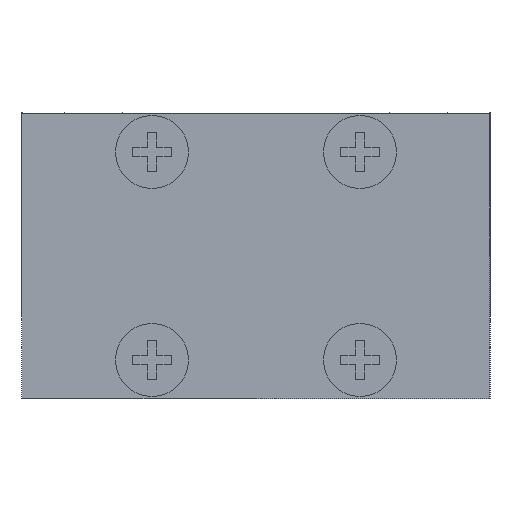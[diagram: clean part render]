
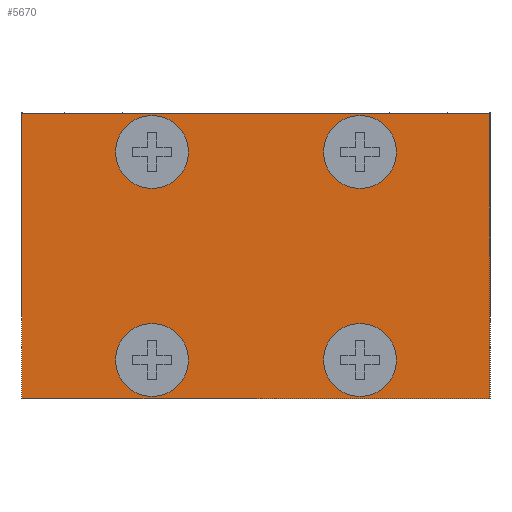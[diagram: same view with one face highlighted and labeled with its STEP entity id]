
A CAD part, left-side view. The second image highlights one B-rep face of the part: STEP entity #5670.
In plain terms, the highlighted planar face has unit normal (-1, 0, 0).
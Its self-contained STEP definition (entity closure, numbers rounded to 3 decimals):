
#280=LINE('',#7348,#569);
#281=LINE('',#7351,#570);
#282=LINE('',#7353,#571);
#283=LINE('',#7355,#572);
#569=VECTOR('',#6329,1000.);
#570=VECTOR('',#6330,1000.);
#571=VECTOR('',#6331,1000.);
#572=VECTOR('',#6332,1000.);
#858=ORIENTED_EDGE('',*,*,#1924,.T.);
#859=ORIENTED_EDGE('',*,*,#1925,.T.);
#860=ORIENTED_EDGE('',*,*,#1926,.T.);
#861=ORIENTED_EDGE('',*,*,#1927,.T.);
#862=ORIENTED_EDGE('',*,*,#1928,.F.);
#863=ORIENTED_EDGE('',*,*,#1929,.F.);
#864=ORIENTED_EDGE('',*,*,#1930,.T.);
#865=ORIENTED_EDGE('',*,*,#1931,.T.);
#1924=EDGE_CURVE('',#2457,#2457,#2851,.T.);
#1925=EDGE_CURVE('',#2458,#2458,#2852,.T.);
#1926=EDGE_CURVE('',#2459,#2460,#280,.T.);
#1927=EDGE_CURVE('',#2460,#2461,#281,.T.);
#1928=EDGE_CURVE('',#2462,#2461,#282,.T.);
#1929=EDGE_CURVE('',#2459,#2462,#283,.T.);
#1930=EDGE_CURVE('',#2463,#2463,#2853,.T.);
#1931=EDGE_CURVE('',#2464,#2464,#2854,.T.);
#2457=VERTEX_POINT('',#7345);
#2458=VERTEX_POINT('',#7347);
#2459=VERTEX_POINT('',#7349);
#2460=VERTEX_POINT('',#7350);
#2461=VERTEX_POINT('',#7352);
#2462=VERTEX_POINT('',#7354);
#2463=VERTEX_POINT('',#7357);
#2464=VERTEX_POINT('',#7359);
#2851=CIRCLE('',#5957,2.8);
#2852=CIRCLE('',#5958,2.8);
#2853=CIRCLE('',#5959,2.8);
#2854=CIRCLE('',#5960,2.8);
#2987=EDGE_LOOP('',(#858));
#2988=EDGE_LOOP('',(#859));
#2989=EDGE_LOOP('',(#860,#861,#862,#863));
#2990=EDGE_LOOP('',(#864));
#2991=EDGE_LOOP('',(#865));
#3383=FACE_BOUND('',#2987,.T.);
#3384=FACE_BOUND('',#2988,.T.);
#3385=FACE_BOUND('',#2989,.T.);
#3386=FACE_BOUND('',#2990,.T.);
#3387=FACE_BOUND('',#2991,.T.);
#3784=PLANE('',#5956);
#5670=ADVANCED_FACE('',(#3383,#3384,#3385,#3386,#3387),#3784,.T.);
#5956=AXIS2_PLACEMENT_3D('',#7343,#6323,#6324);
#5957=AXIS2_PLACEMENT_3D('',#7344,#6325,#6326);
#5958=AXIS2_PLACEMENT_3D('',#7346,#6327,#6328);
#5959=AXIS2_PLACEMENT_3D('',#7356,#6333,#6334);
#5960=AXIS2_PLACEMENT_3D('',#7358,#6335,#6336);
#6323=DIRECTION('',(-1.,0.,0.));
#6324=DIRECTION('',(0.,-1.,0.));
#6325=DIRECTION('',(1.,0.,0.));
#6326=DIRECTION('',(0.,1.,0.));
#6327=DIRECTION('',(1.,0.,0.));
#6328=DIRECTION('',(0.,1.,0.));
#6329=DIRECTION('',(0.,-1.,0.));
#6330=DIRECTION('',(0.,0.,1.));
#6331=DIRECTION('',(0.,-1.,0.));
#6332=DIRECTION('',(0.,0.,1.));
#6333=DIRECTION('',(1.,0.,0.));
#6334=DIRECTION('',(0.,1.,0.));
#6335=DIRECTION('',(1.,0.,0.));
#6336=DIRECTION('',(0.,1.,0.));
#7343=CARTESIAN_POINT('',(-58.,18.,-11.));
#7344=CARTESIAN_POINT('',(-58.,8.,-8.));
#7345=CARTESIAN_POINT('',(-58.,10.8,-8.));
#7346=CARTESIAN_POINT('',(-58.,-8.,-8.));
#7347=CARTESIAN_POINT('',(-58.,-5.2,-8.));
#7348=CARTESIAN_POINT('',(-58.,18.,-11.));
#7349=CARTESIAN_POINT('',(-58.,18.,-11.));
#7350=CARTESIAN_POINT('',(-58.,-18.,-11.));
#7351=CARTESIAN_POINT('',(-58.,-18.,-11.));
#7352=CARTESIAN_POINT('',(-58.,-18.,11.));
#7353=CARTESIAN_POINT('',(-58.,18.,11.));
#7354=CARTESIAN_POINT('',(-58.,18.,11.));
#7355=CARTESIAN_POINT('',(-58.,18.,-11.));
#7356=CARTESIAN_POINT('',(-58.,-8.,8.));
#7357=CARTESIAN_POINT('',(-58.,-5.2,8.));
#7358=CARTESIAN_POINT('',(-58.,8.,8.));
#7359=CARTESIAN_POINT('',(-58.,10.8,8.));
